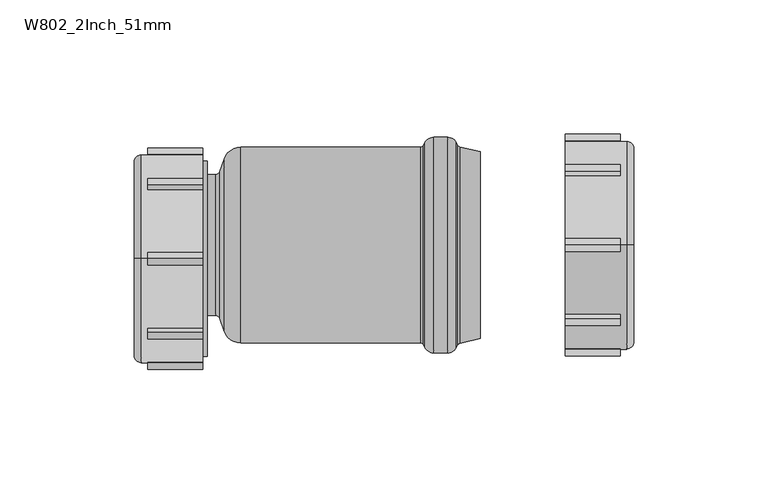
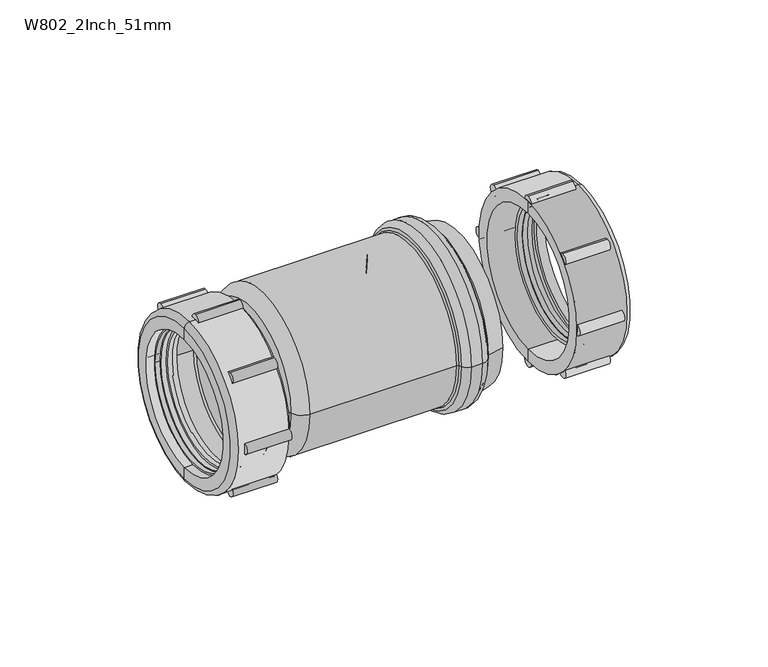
"""IFC4 building model written with IfcOpenShell, lengths in millimetres: pipe fitting geometry, Durapipe_PipeFitting_VulcatheneMechanical_HorizontalVerticalStressRelifUnit_W80 : W802_2Inch_51mm."""

from ifc_helpers import new_model, si_unit, point, frame, frame_2d, origin, place, context, project, spatial, polyline, circle_curve, ellipse_curve, trimmed, segment, composite_curve, outline, extrude, source, transform, mapped, element, save
from ifc_brep_helpers import plane_surface, cylinder_surface, revolved_surface, advanced_brep


def w802_2inch_51mm_31d1ba8a(model_context):
    return source(origin(), model_context, "Body", "SolidModel", [
        advanced_brep(
        [(86.45, -17.745549, -22.839549), (86.45, -16.1899141, -21.2839141), (86.45, 26.3779141, 21.2839141), (86.45, 27.933549, 22.839549), (80.85, -17.2505743, -22.3445743), (80.85, 27.4385743, 22.3445743), (79.45, -16.8263102, -21.9203102), (80.85, -16.8263102, -21.9203102), (80.85, 27.0143102, 21.9203102), (79.45, 27.0143102, 21.9203102), (79.45, 26.0243607, 20.9303607), (79.45, -15.8363607, -20.9303607), (81.75, 26.0243607, 20.9303607), (81.75, -15.8363607, -20.9303607), (81.75, 25.741518, 20.647518), (81.75, -15.553518, -20.647518), (83.95, -16.1899141, -21.2839141), (83.95, -15.553518, -20.647518), (83.95, 25.741518, 20.647518), (83.95, 26.3779141, 21.2839141)],
        [
            (0, 1),
            (1, 2, circle_curve(frame((86.45, 5.094, 0.0), z_axis=(-1.0, 0.0, 0.0), x_axis=(0.0, 0.7071067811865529, 0.7071067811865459)), 30.1)),
            (2, 3),
            (3, 0, circle_curve(frame((86.45, 5.094, 0.0), z_axis=(1.0, 0.0, 0.0), x_axis=(0.0, 0.7071067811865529, 0.7071067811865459)), 32.3)),
            (2, 1, circle_curve(frame((86.45, 5.094, 0.0), z_axis=(-1.0, 0.0, 0.0), x_axis=(0.0, 0.7071067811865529, 0.7071067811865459)), 30.1)),
            (0, 3, circle_curve(frame((86.45, 5.094, 0.0), z_axis=(1.0, 0.0, 0.0), x_axis=(0.0, 0.7071067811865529, 0.7071067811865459)), 32.3)),
            (4, 0),
            (3, 5),
            (5, 4, circle_curve(frame((80.85, 5.094, 0.0), z_axis=(1.0, 0.0, 0.0), x_axis=(0.0, 0.7071067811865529, 0.7071067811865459)), 31.6)),
            (4, 5, circle_curve(frame((80.85, 5.094, 0.0), z_axis=(1.0, 0.0, 0.0), x_axis=(0.0, 0.7071067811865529, 0.7071067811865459)), 31.6)),
            (6, 7),
            (7, 8, circle_curve(frame((80.85, 5.094, 0.0), z_axis=(-1.0, 0.0, 0.0), x_axis=(0.0, 0.7071067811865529, 0.7071067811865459)), 31.0)),
            (8, 9),
            (9, 6, circle_curve(frame((79.45, 5.094, 0.0), z_axis=(1.0, 0.0, 0.0), x_axis=(0.0, 0.7071067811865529, 0.7071067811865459)), 31.0)),
            (8, 7, circle_curve(frame((80.85, 5.094, 0.0), z_axis=(-1.0, 0.0, 0.0), x_axis=(0.0, 0.7071067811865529, 0.7071067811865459)), 31.0)),
            (6, 9, circle_curve(frame((79.45, 5.094, 0.0), z_axis=(1.0, 0.0, 0.0), x_axis=(0.0, 0.7071067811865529, 0.7071067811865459)), 31.0)),
            (9, 10),
            (10, 11, circle_curve(frame((79.45, 5.094, 0.0), z_axis=(1.0, 0.0, 0.0), x_axis=(0.0, 0.7071067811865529, 0.7071067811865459)), 29.6)),
            (11, 6),
            (11, 10, circle_curve(frame((79.45, 5.094, 0.0), z_axis=(1.0, 0.0, 0.0), x_axis=(0.0, 0.7071067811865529, 0.7071067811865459)), 29.6)),
            (10, 12),
            (12, 13, circle_curve(frame((81.75, 5.094, 0.0), z_axis=(1.0, 0.0, 0.0), x_axis=(0.0, 0.7071067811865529, 0.7071067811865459)), 29.6)),
            (13, 11),
            (13, 12, circle_curve(frame((81.75, 5.094, 0.0), z_axis=(1.0, 0.0, 0.0), x_axis=(0.0, 0.7071067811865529, 0.7071067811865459)), 29.6)),
            (12, 14),
            (14, 15, circle_curve(frame((81.75, 5.094, 0.0), z_axis=(1.0, 0.0, 0.0), x_axis=(0.0, 0.7071067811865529, 0.7071067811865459)), 29.2)),
            (15, 13),
            (15, 14, circle_curve(frame((81.75, 5.094, 0.0), z_axis=(1.0, 0.0, 0.0), x_axis=(0.0, 0.7071067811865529, 0.7071067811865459)), 29.2)),
            (16, 17),
            (17, 18, circle_curve(frame((83.95, 5.094, 0.0), z_axis=(-1.0, 0.0, 0.0), x_axis=(0.0, 0.7071067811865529, 0.7071067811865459)), 29.2)),
            (18, 19),
            (19, 16, circle_curve(frame((83.95, 5.094, 0.0), z_axis=(1.0, 0.0, 0.0), x_axis=(0.0, 0.7071067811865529, 0.7071067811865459)), 30.1)),
            (18, 17, circle_curve(frame((83.95, 5.094, 0.0), z_axis=(-1.0, 0.0, 0.0), x_axis=(0.0, 0.7071067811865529, 0.7071067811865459)), 29.2)),
            (16, 19, circle_curve(frame((83.95, 5.094, 0.0), z_axis=(1.0, 0.0, 0.0), x_axis=(0.0, 0.7071067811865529, 0.7071067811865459)), 30.1)),
            (1, 16),
            (19, 2),
            (14, 18),
            (17, 15),
            (5, 8),
            (7, 4),
        ],
        [
            plane_surface(frame((86.45, 5.094, 0.0), z_axis=(1.0, 0.0, 0.0), x_axis=(0.0, 0.707106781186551, 0.707106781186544))),
            revolved_surface(polyline([(86.45, 27.933549, 22.839549), (80.85, 27.4385743, 22.3445743)]), (91.45, 5.094, 0.0), (-1.0000000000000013, 0.0, 0.0)),
            cylinder_surface(frame((77.3793443, 5.094, 0.0), z_axis=(-1.0000000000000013, 0.0, 0.0), x_axis=(0.0, 0.7071067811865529, 0.7071067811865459)), 31.0),
            plane_surface(frame((79.45, 5.094, 0.0), z_axis=(-1.0, 0.0, 0.0), x_axis=(0.0, 0.707106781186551, 0.707106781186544))),
            revolved_surface(polyline([(79.45000000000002, 26.02436072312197, 20.93036072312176), (81.75000000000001, 26.02436072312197, 20.93036072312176)]), (75.957009, 5.094, 0.0), (-1.0000000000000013, 0.0, 0.0)),
            plane_surface(frame((81.75, 5.094, 0.0), z_axis=(-1.0, 0.0, 0.0), x_axis=(0.0, 0.707106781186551, 0.707106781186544))),
            plane_surface(frame((83.95, 5.094, 0.0), z_axis=(1.0, 0.0, 0.0), x_axis=(0.0, 0.707106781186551, 0.707106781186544))),
            revolved_surface(polyline([(83.94999999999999, 26.377914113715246, 21.28391411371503), (86.44999999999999, 26.377914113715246, 21.28391411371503)]), (91.45, 5.094, 0.0), (-1.0000000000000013, 0.0, 0.0)),
            revolved_surface(polyline([(81.74999999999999, 25.741518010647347, 20.64751801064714), (83.94999999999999, 25.741518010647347, 20.64751801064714)]), (88.0161924, 5.094, 0.0), (-1.0000000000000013, 0.0, 0.0)),
            plane_surface(frame((80.85, 5.094, 0.0), z_axis=(-1.0, 0.0, 0.0), x_axis=(0.0, 0.707106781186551, 0.707106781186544))),
        ],
        [
            (0, [[1, 2, 3, 4]]),
            (0, [[5, -1, 6, -3]]),
            (1, [[7, -4, 8, 9]]),
            (1, [[-8, -6, -7, 10]]),
            (2, [[11, 12, 13, 14]]),
            (2, [[15, -11, 16, -13]]),
            (3, [[17, 18, 19, -14]]),
            (3, [[-19, 20, -17, -16]]),
            (4, [[-18, 21, 22, 23]]),
            (4, [[24, -21, -20, -23]]),
            (5, [[25, 26, 27, -22]]),
            (5, [[-27, 28, -25, -24]]),
            (6, [[29, 30, 31, 32]]),
            (6, [[-31, 33, -29, 34]]),
            (7, [[35, -32, 36, -2]]),
            (7, [[-36, -34, -35, -5]]),
            (8, [[-26, 37, -30, 38]]),
            (8, [[-33, -37, -28, -38]]),
            (9, [[39, -12, 40, -9]]),
            (9, [[-40, -15, -39, -10]]),
        ],
    ),
        advanced_brep(
        [(67.5, 5.094, -38.8), (90.4, 5.094, -38.8), (90.4, 5.094, 38.8), (67.5, 5.094, 38.8), (67.5, 5.094, -33.0), (67.5, 5.094, 33.0), (92.9, 5.094, -36.3), (92.9, 5.094, -31.0), (92.9, 5.094, 31.0), (92.9, 5.094, 36.3), (89.0, 5.094, -33.0), (89.0, 5.094, 33.0), (89.0, 5.094, -31.0), (89.0, 5.094, 31.0)],
        [
            (0, 1),
            (1, 2, circle_curve(frame((90.4, 5.094, 0.0), z_axis=(-1.0, 0.0, 0.0), x_axis=(0.0, 0.0, 1.0000000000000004)), 38.8)),
            (2, 3),
            (3, 0, circle_curve(frame((67.5, 5.094, 0.0), z_axis=(1.0, 0.0, 0.0), x_axis=(0.0, 0.0, 1.0000000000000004)), 38.8)),
            (2, 1, circle_curve(frame((90.4, 5.094, 0.0), z_axis=(-1.0, 0.0, 0.0), x_axis=(0.0, 0.0, 1.0000000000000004)), 38.8)),
            (0, 3, circle_curve(frame((67.5, 5.094, 0.0), z_axis=(1.0, 0.0, 0.0), x_axis=(0.0, 0.0, 1.0000000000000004)), 38.8)),
            (4, 0),
            (3, 5),
            (5, 4, circle_curve(frame((67.5, 5.094, 0.0), z_axis=(1.0, 0.0, 0.0), x_axis=(0.0, 0.0, 1.0000000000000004)), 33.0)),
            (4, 5, circle_curve(frame((67.5, 5.094, 0.0), z_axis=(1.0, 0.0, 0.0), x_axis=(0.0, 0.0, 1.0000000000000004)), 33.0)),
            (6, 7),
            (7, 8, circle_curve(frame((92.9, 5.094, 0.0), z_axis=(-1.0, 0.0, 0.0), x_axis=(0.0, 0.0, 1.0000000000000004)), 31.0)),
            (8, 9),
            (9, 6, circle_curve(frame((92.9, 5.094, 0.0), z_axis=(1.0, 0.0, 0.0), x_axis=(0.0, 0.0, 1.0000000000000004)), 36.3)),
            (8, 7, circle_curve(frame((92.9, 5.094, 0.0), z_axis=(-1.0, 0.0, 0.0), x_axis=(0.0, 0.0, 1.0000000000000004)), 31.0)),
            (6, 9, circle_curve(frame((92.9, 5.094, 0.0), z_axis=(1.0, 0.0, 0.0), x_axis=(0.0, 0.0, 1.0000000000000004)), 36.3)),
            (1, 6, circle_curve(frame((90.4, 5.094, -36.3), z_axis=(0.0, -1.0000000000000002, 0.0), x_axis=(1.0000000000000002, 0.0, 0.0)), 2.5)),
            (9, 2, circle_curve(frame((90.4, 5.094, 36.3), z_axis=(0.0, -1.0000000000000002, 0.0), x_axis=(1.0000000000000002, 0.0, 0.0)), 2.5)),
            (10, 4),
            (5, 11),
            (11, 10, circle_curve(frame((89.0, 5.094, 0.0), z_axis=(1.0, 0.0, 0.0), x_axis=(0.0, 0.0, 1.0000000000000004)), 33.0)),
            (10, 11, circle_curve(frame((89.0, 5.094, 0.0), z_axis=(1.0, 0.0, 0.0), x_axis=(0.0, 0.0, 1.0000000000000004)), 33.0)),
            (12, 10),
            (11, 13),
            (13, 12, circle_curve(frame((89.0, 5.094, 0.0), z_axis=(1.0, 0.0, 0.0), x_axis=(0.0, 0.0, 1.0000000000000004)), 31.0)),
            (12, 13, circle_curve(frame((89.0, 5.094, 0.0), z_axis=(1.0, 0.0, 0.0), x_axis=(0.0, 0.0, 1.0000000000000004)), 31.0)),
            (7, 12),
            (13, 8),
        ],
        [
            cylinder_surface(frame((1653.7018184, 5.094, 0.0), z_axis=(-1.0000000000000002, 0.0, 0.0), x_axis=(0.0, 0.0, 1.0000000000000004)), 38.8),
            plane_surface(frame((67.5, 5.094, 0.0), z_axis=(-1.0, 0.0, 0.0), x_axis=(0.0, 0.0, 1.0))),
            plane_surface(frame((92.9, 5.094, 0.0), z_axis=(1.0, 0.0, 0.0), x_axis=(0.0, 0.0, 1.0))),
            revolved_surface(trimmed(ellipse_curve(frame((90.4, 5.094, 36.3), z_axis=(0.0, -1.0000000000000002, 0.0), x_axis=(1.0000000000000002, 0.0, 0.0)), 2.5, 2.5), [point((92.9, 5.094, 36.3))], [point((90.4, 5.094, 38.8))], True, "CARTESIAN"), (1653.7018184, 5.094, 0.0), (-1.0000000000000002, 0.0, 0.0)),
            revolved_surface(polyline([(67.49999999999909, 5.094, 33.000000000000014), (88.99999999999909, 5.094, 33.000000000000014)]), (1653.7018184, 5.094, 0.0), (-1.0000000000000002, 0.0, 0.0)),
            plane_surface(frame((89.0, 5.094, 0.0), z_axis=(-1.0, 0.0, 0.0), x_axis=(0.0, 0.0, 1.0))),
            revolved_surface(polyline([(88.99999999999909, 5.094, 31.000000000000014), (92.89999999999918, 5.094, 31.000000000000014)]), (1653.7018184, 5.094, 0.0), (-1.0000000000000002, 0.0, 0.0)),
        ],
        [
            (0, [[1, 2, 3, 4]]),
            (0, [[-3, 5, -1, 6]]),
            (1, [[7, -4, 8, 9]]),
            (1, [[-8, -6, -7, 10]]),
            (2, [[11, 12, 13, 14]]),
            (2, [[-13, 15, -11, 16]]),
            (3, [[17, -14, 18, -2]]),
            (3, [[-18, -16, -17, -5]]),
            (4, [[19, -9, 20, 21]]),
            (4, [[-20, -10, -19, 22]]),
            (5, [[23, -21, 24, 25]]),
            (5, [[-24, -22, -23, 26]]),
            (6, [[27, -25, 28, -12]]),
            (6, [[-28, -26, -27, -15]]),
        ],
    ),
        extrude(outline(composite_curve([segment(trimmed(circle_curve(frame_2d((43.894, 0.0)), 2.5), [point((43.894, -2.5))], [point((43.894, 2.5))], False, "CARTESIAN"), True, "CONTINUOUS"), segment(trimmed(circle_curve(frame_2d((43.894, 0.0)), 2.5), [point((43.894, 2.5))], [point((43.894, -2.5))], False, "CARTESIAN"), True, "CONTINUOUS")], self_intersect=False)), frame((67.5, 0.0, 0.0), z_axis=(1.0, 0.0, 0.0), x_axis=(0.0, 1.0, 0.0)), (0.0, 0.0, 1.0), 20.4),
        extrude(outline(composite_curve([segment(trimmed(circle_curve(frame_2d((32.5297431, 27.4357431)), 2.5), [point((32.5297431, 24.9357431))], [point((32.5297431, 29.9357431))], False, "CARTESIAN"), True, "CONTINUOUS"), segment(trimmed(circle_curve(frame_2d((32.5297431, 27.4357431)), 2.5), [point((32.5297431, 29.9357431))], [point((32.5297431, 24.9357431))], False, "CARTESIAN"), True, "CONTINUOUS")], self_intersect=False)), frame((67.5, 0.0, 0.0), z_axis=(1.0, 0.0, 0.0), x_axis=(0.0, 1.0, 0.0)), (0.0, 0.0, 1.0), 20.4),
        extrude(outline(composite_curve([segment(trimmed(circle_curve(frame_2d((5.094, 38.8)), 2.5), [point((5.094, 36.3))], [point((5.094, 41.3))], False, "CARTESIAN"), True, "CONTINUOUS"), segment(trimmed(circle_curve(frame_2d((5.094, 38.8)), 2.5), [point((5.094, 41.3))], [point((5.094, 36.3))], False, "CARTESIAN"), True, "CONTINUOUS")], self_intersect=False)), frame((67.5, 0.0, 0.0), z_axis=(1.0, 0.0, 0.0), x_axis=(0.0, 1.0, 0.0)), (0.0, 0.0, 1.0), 20.4),
        extrude(outline(composite_curve([segment(trimmed(circle_curve(frame_2d((-22.3417431, 27.4357431)), 2.5), [point((-22.3417431, 24.9357431))], [point((-22.3417431, 29.9357431))], False, "CARTESIAN"), True, "CONTINUOUS"), segment(trimmed(circle_curve(frame_2d((-22.3417431, 27.4357431)), 2.5), [point((-22.3417431, 29.9357431))], [point((-22.3417431, 24.9357431))], False, "CARTESIAN"), True, "CONTINUOUS")], self_intersect=False)), frame((67.5, 0.0, 0.0), z_axis=(1.0, 0.0, 0.0), x_axis=(0.0, 1.0, 0.0)), (0.0, 0.0, 1.0), 20.4),
        extrude(outline(composite_curve([segment(trimmed(circle_curve(frame_2d((-33.706, 0.0)), 2.5), [point((-33.706, -2.5))], [point((-33.706, 2.5))], False, "CARTESIAN"), True, "CONTINUOUS"), segment(trimmed(circle_curve(frame_2d((-33.706, 0.0)), 2.5), [point((-33.706, 2.5))], [point((-33.706, -2.5))], False, "CARTESIAN"), True, "CONTINUOUS")], self_intersect=False)), frame((67.5, 0.0, 0.0), z_axis=(1.0, 0.0, 0.0), x_axis=(0.0, 1.0, 0.0)), (0.0, 0.0, 1.0), 20.4),
        extrude(outline(composite_curve([segment(trimmed(circle_curve(frame_2d((-22.3417431, -27.4357431)), 2.5), [point((-22.3417431, -29.9357431))], [point((-22.3417431, -24.9357431))], False, "CARTESIAN"), True, "CONTINUOUS"), segment(trimmed(circle_curve(frame_2d((-22.3417431, -27.4357431)), 2.5), [point((-22.3417431, -24.9357431))], [point((-22.3417431, -29.9357431))], False, "CARTESIAN"), True, "CONTINUOUS")], self_intersect=False)), frame((67.5, 0.0, 0.0), z_axis=(1.0, 0.0, 0.0), x_axis=(0.0, 1.0, 0.0)), (0.0, 0.0, 1.0), 20.4),
        extrude(outline(composite_curve([segment(trimmed(circle_curve(frame_2d((5.094, -38.8)), 2.5), [point((5.094, -41.3))], [point((5.094, -36.3))], False, "CARTESIAN"), True, "CONTINUOUS"), segment(trimmed(circle_curve(frame_2d((5.094, -38.8)), 2.5), [point((5.094, -36.3))], [point((5.094, -41.3))], False, "CARTESIAN"), True, "CONTINUOUS")], self_intersect=False)), frame((67.5, 0.0, 0.0), z_axis=(1.0, 0.0, 0.0), x_axis=(0.0, 1.0, 0.0)), (0.0, 0.0, 1.0), 20.4),
        extrude(outline(composite_curve([segment(trimmed(circle_curve(frame_2d((32.5297431, -27.4357431)), 2.5), [point((32.5297431, -29.9357431))], [point((32.5297431, -24.9357431))], False, "CARTESIAN"), True, "CONTINUOUS"), segment(trimmed(circle_curve(frame_2d((32.5297431, -27.4357431)), 2.5), [point((32.5297431, -24.9357431))], [point((32.5297431, -29.9357431))], False, "CARTESIAN"), True, "CONTINUOUS")], self_intersect=False)), frame((67.5, 0.0, 0.0), z_axis=(1.0, 0.0, 0.0), x_axis=(0.0, 1.0, 0.0)), (0.0, 0.0, 1.0), 20.4),
        advanced_brep(
        [(-86.45, -22.839549, -22.839549), (-86.45, 22.839549, 22.839549), (-86.45, 21.2839141, 21.2839141), (-86.45, -21.2839141, -21.2839141), (-80.85, -22.3445743, -22.3445743), (-80.85, 22.3445743, 22.3445743), (-79.45, -21.9203102, -21.9203102), (-79.45, 21.9203102, 21.9203102), (-80.85, 21.9203102, 21.9203102), (-80.85, -21.9203102, -21.9203102), (-79.45, -20.9303607, -20.9303607), (-79.45, 20.9303607, 20.9303607), (-81.75, -20.9303607, -20.9303607), (-81.75, 20.9303607, 20.9303607), (-81.75, -20.647518, -20.647518), (-81.75, 20.647518, 20.647518), (-83.95, -21.2839141, -21.2839141), (-83.95, 21.2839141, 21.2839141), (-83.95, 20.647518, 20.647518), (-83.95, -20.647518, -20.647518)],
        [
            (0, 1, circle_curve(frame((-86.45, 0.0, 0.0), z_axis=(-1.0, 0.0, 0.0), x_axis=(0.0, 0.7071067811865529, 0.7071067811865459)), 32.3)),
            (1, 2),
            (2, 3, circle_curve(frame((-86.45, 0.0, 0.0), z_axis=(1.0, 0.0, 0.0), x_axis=(0.0, 0.7071067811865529, 0.7071067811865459)), 30.1)),
            (3, 0),
            (1, 0, circle_curve(frame((-86.45, 0.0, 0.0), z_axis=(-1.0, 0.0, 0.0), x_axis=(0.0, 0.7071067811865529, 0.7071067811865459)), 32.3)),
            (3, 2, circle_curve(frame((-86.45, 0.0, 0.0), z_axis=(1.0, 0.0, 0.0), x_axis=(0.0, 0.7071067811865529, 0.7071067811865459)), 30.1)),
            (4, 5, circle_curve(frame((-80.85, 0.0, 0.0), z_axis=(-1.0, 0.0, 0.0), x_axis=(0.0, 0.7071067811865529, 0.7071067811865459)), 31.6)),
            (5, 1),
            (0, 4),
            (5, 4, circle_curve(frame((-80.85, 0.0, 0.0), z_axis=(-1.0, 0.0, 0.0), x_axis=(0.0, 0.7071067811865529, 0.7071067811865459)), 31.6)),
            (6, 7, circle_curve(frame((-79.45, 0.0, 0.0), z_axis=(-1.0, 0.0, 0.0), x_axis=(0.0, 0.7071067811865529, 0.7071067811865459)), 31.0)),
            (7, 8),
            (8, 9, circle_curve(frame((-80.85, 0.0, 0.0), z_axis=(1.0, 0.0, 0.0), x_axis=(0.0, 0.7071067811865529, 0.7071067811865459)), 31.0)),
            (9, 6),
            (7, 6, circle_curve(frame((-79.45, 0.0, 0.0), z_axis=(-1.0, 0.0, 0.0), x_axis=(0.0, 0.7071067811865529, 0.7071067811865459)), 31.0)),
            (9, 8, circle_curve(frame((-80.85, 0.0, 0.0), z_axis=(1.0, 0.0, 0.0), x_axis=(0.0, 0.7071067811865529, 0.7071067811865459)), 31.0)),
            (6, 10),
            (10, 11, circle_curve(frame((-79.45, 0.0, 0.0), z_axis=(-1.0, 0.0, 0.0), x_axis=(0.0, 0.7071067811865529, 0.7071067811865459)), 29.6)),
            (11, 7),
            (11, 10, circle_curve(frame((-79.45, 0.0, 0.0), z_axis=(-1.0, 0.0, 0.0), x_axis=(0.0, 0.7071067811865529, 0.7071067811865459)), 29.6)),
            (10, 12),
            (12, 13, circle_curve(frame((-81.75, 0.0, 0.0), z_axis=(-1.0, 0.0, 0.0), x_axis=(0.0, 0.7071067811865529, 0.7071067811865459)), 29.6)),
            (13, 11),
            (13, 12, circle_curve(frame((-81.75, 0.0, 0.0), z_axis=(-1.0, 0.0, 0.0), x_axis=(0.0, 0.7071067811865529, 0.7071067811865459)), 29.6)),
            (12, 14),
            (14, 15, circle_curve(frame((-81.75, 0.0, 0.0), z_axis=(-1.0, 0.0, 0.0), x_axis=(0.0, 0.7071067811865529, 0.7071067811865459)), 29.2)),
            (15, 13),
            (15, 14, circle_curve(frame((-81.75, 0.0, 0.0), z_axis=(-1.0, 0.0, 0.0), x_axis=(0.0, 0.7071067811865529, 0.7071067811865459)), 29.2)),
            (16, 17, circle_curve(frame((-83.95, 0.0, 0.0), z_axis=(-1.0, 0.0, 0.0), x_axis=(0.0, 0.7071067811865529, 0.7071067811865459)), 30.1)),
            (17, 18),
            (18, 19, circle_curve(frame((-83.95, 0.0, 0.0), z_axis=(1.0, 0.0, 0.0), x_axis=(0.0, 0.7071067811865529, 0.7071067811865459)), 29.2)),
            (19, 16),
            (17, 16, circle_curve(frame((-83.95, 0.0, 0.0), z_axis=(-1.0, 0.0, 0.0), x_axis=(0.0, 0.7071067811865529, 0.7071067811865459)), 30.1)),
            (19, 18, circle_curve(frame((-83.95, 0.0, 0.0), z_axis=(1.0, 0.0, 0.0), x_axis=(0.0, 0.7071067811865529, 0.7071067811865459)), 29.2)),
            (2, 17),
            (16, 3),
            (14, 19),
            (18, 15),
            (4, 9),
            (8, 5),
        ],
        [
            plane_surface(frame((-86.45, 0.0, 0.0), z_axis=(-1.0, 0.0, 0.0), x_axis=(0.0, 0.707106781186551, 0.707106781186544))),
            revolved_surface(polyline([(-86.45, 22.839549, 22.839549), (-80.85, 22.3445743, 22.3445743)]), (-91.45, 0.0, 0.0), (1.0000000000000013, 0.0, 0.0)),
            cylinder_surface(frame((-77.3793443, 0.0, 0.0), z_axis=(1.0000000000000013, 0.0, 0.0), x_axis=(0.0, 0.7071067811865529, 0.7071067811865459)), 31.0),
            plane_surface(frame((-79.45, 0.0, 0.0), z_axis=(1.0, 0.0, 0.0), x_axis=(0.0, 0.707106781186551, 0.707106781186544))),
            revolved_surface(polyline([(-79.45000000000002, 20.930360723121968, 20.93036072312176), (-81.75000000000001, 20.930360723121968, 20.93036072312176)]), (-75.957009, 0.0, 0.0), (1.0000000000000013, 0.0, 0.0)),
            plane_surface(frame((-81.75, 0.0, 0.0), z_axis=(1.0, 0.0, 0.0), x_axis=(0.0, 0.707106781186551, 0.707106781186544))),
            plane_surface(frame((-83.95, 0.0, 0.0), z_axis=(-1.0, 0.0, 0.0), x_axis=(0.0, 0.707106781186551, 0.707106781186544))),
            revolved_surface(polyline([(-83.94999999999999, 21.283914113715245, 21.28391411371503), (-86.44999999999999, 21.283914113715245, 21.28391411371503)]), (-91.45, 0.0, 0.0), (1.0000000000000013, 0.0, 0.0)),
            revolved_surface(polyline([(-81.74999999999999, 20.647518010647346, 20.64751801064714), (-83.94999999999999, 20.647518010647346, 20.64751801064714)]), (-88.0161924, 0.0, 0.0), (1.0000000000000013, 0.0, 0.0)),
            plane_surface(frame((-80.85, 0.0, 0.0), z_axis=(1.0, 0.0, 0.0), x_axis=(0.0, 0.707106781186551, 0.707106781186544))),
        ],
        [
            (0, [[1, 2, 3, 4]]),
            (0, [[-2, 5, -4, 6]]),
            (1, [[7, 8, -1, 9]]),
            (1, [[10, -9, -5, -8]]),
            (2, [[11, 12, 13, 14]]),
            (2, [[-12, 15, -14, 16]]),
            (3, [[-11, 17, 18, 19]]),
            (3, [[-15, -19, 20, -17]]),
            (4, [[21, 22, 23, -18]]),
            (4, [[-21, -20, -23, 24]]),
            (5, [[-22, 25, 26, 27]]),
            (5, [[-24, -27, 28, -25]]),
            (6, [[29, 30, 31, 32]]),
            (6, [[33, -32, 34, -30]]),
            (7, [[-3, 35, -29, 36]]),
            (7, [[-6, -36, -33, -35]]),
            (8, [[37, -31, 38, -26]]),
            (8, [[-37, -28, -38, -34]]),
            (9, [[-7, 39, -13, 40]]),
            (9, [[-10, -40, -16, -39]]),
        ],
    ),
        advanced_brep(
        [(-67.5, 0.0, -38.8), (-67.5, 0.0, 38.8), (-90.4, 0.0, 38.8), (-90.4, 0.0, -38.8), (-67.5, 0.0, -33.0), (-67.5, 0.0, 33.0), (-92.9, 0.0, -36.3), (-92.9, 0.0, 36.3), (-92.9, 0.0, 31.0), (-92.9, 0.0, -31.0), (-89.0, 0.0, -33.0), (-89.0, 0.0, 33.0), (-89.0, 0.0, -31.0), (-89.0, 0.0, 31.0)],
        [
            (0, 1, circle_curve(frame((-67.5, 0.0, 0.0), z_axis=(-1.0, 0.0, 0.0), x_axis=(0.0, 0.0, 1.0000000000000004)), 38.8)),
            (1, 2),
            (2, 3, circle_curve(frame((-90.4, 0.0, 0.0), z_axis=(1.0, 0.0, 0.0), x_axis=(0.0, 0.0, 1.0000000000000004)), 38.8)),
            (3, 0),
            (1, 0, circle_curve(frame((-67.5, 0.0, 0.0), z_axis=(-1.0, 0.0, 0.0), x_axis=(0.0, 0.0, 1.0000000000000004)), 38.8)),
            (3, 2, circle_curve(frame((-90.4, 0.0, 0.0), z_axis=(1.0, 0.0, 0.0), x_axis=(0.0, 0.0, 1.0000000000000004)), 38.8)),
            (4, 5, circle_curve(frame((-67.5, 0.0, 0.0), z_axis=(-1.0, 0.0, 0.0), x_axis=(0.0, 0.0, 1.0000000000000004)), 33.0)),
            (5, 1),
            (0, 4),
            (5, 4, circle_curve(frame((-67.5, 0.0, 0.0), z_axis=(-1.0, 0.0, 0.0), x_axis=(0.0, 0.0, 1.0000000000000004)), 33.0)),
            (6, 7, circle_curve(frame((-92.9, 0.0, 0.0), z_axis=(-1.0, 0.0, 0.0), x_axis=(0.0, 0.0, 1.0000000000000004)), 36.3)),
            (7, 8),
            (8, 9, circle_curve(frame((-92.9, 0.0, 0.0), z_axis=(1.0, 0.0, 0.0), x_axis=(0.0, 0.0, 1.0000000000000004)), 31.0)),
            (9, 6),
            (7, 6, circle_curve(frame((-92.9, 0.0, 0.0), z_axis=(-1.0, 0.0, 0.0), x_axis=(0.0, 0.0, 1.0000000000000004)), 36.3)),
            (9, 8, circle_curve(frame((-92.9, 0.0, 0.0), z_axis=(1.0, 0.0, 0.0), x_axis=(0.0, 0.0, 1.0000000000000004)), 31.0)),
            (2, 7, circle_curve(frame((-90.4, 0.0, 36.3), z_axis=(0.0, -1.0000000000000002, 0.0), x_axis=(-1.0000000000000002, 0.0, 0.0)), 2.5)),
            (6, 3, circle_curve(frame((-90.4, 0.0, -36.3), z_axis=(0.0, -1.0000000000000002, 0.0), x_axis=(-1.0000000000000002, 0.0, 0.0)), 2.5)),
            (10, 11, circle_curve(frame((-89.0, 0.0, 0.0), z_axis=(-1.0, 0.0, 0.0), x_axis=(0.0, 0.0, 1.0000000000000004)), 33.0)),
            (11, 5),
            (4, 10),
            (11, 10, circle_curve(frame((-89.0, 0.0, 0.0), z_axis=(-1.0, 0.0, 0.0), x_axis=(0.0, 0.0, 1.0000000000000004)), 33.0)),
            (12, 13, circle_curve(frame((-89.0, 0.0, 0.0), z_axis=(-1.0, 0.0, 0.0), x_axis=(0.0, 0.0, 1.0000000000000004)), 31.0)),
            (13, 11),
            (10, 12),
            (13, 12, circle_curve(frame((-89.0, 0.0, 0.0), z_axis=(-1.0, 0.0, 0.0), x_axis=(0.0, 0.0, 1.0000000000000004)), 31.0)),
            (8, 13),
            (12, 9),
        ],
        [
            cylinder_surface(frame((-1653.7018184, 0.0, 0.0), z_axis=(1.0000000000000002, 0.0, 0.0), x_axis=(0.0, 0.0, 1.0000000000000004)), 38.8),
            plane_surface(frame((-67.5, 0.0, 0.0), z_axis=(1.0, 0.0, 0.0), x_axis=(0.0, 0.0, 1.0))),
            plane_surface(frame((-92.9, 0.0, 0.0), z_axis=(-1.0, 0.0, 0.0), x_axis=(0.0, 0.0, 1.0))),
            revolved_surface(trimmed(ellipse_curve(frame((-90.4, 0.0, 36.3), z_axis=(0.0, 1.0000000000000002, 0.0), x_axis=(-1.0000000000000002, 0.0, 0.0)), 2.5, 2.5), [point((-92.9, 0.0, 36.3))], [point((-90.4, 0.0, 38.8))], True, "CARTESIAN"), (-1653.7018184, 0.0, 0.0), (1.0000000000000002, 0.0, 0.0)),
            revolved_surface(polyline([(-67.49999999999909, 0.0, 33.000000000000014), (-88.99999999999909, 0.0, 33.000000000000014)]), (-1653.7018184, 0.0, 0.0), (1.0000000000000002, 0.0, 0.0)),
            plane_surface(frame((-89.0, 0.0, 0.0), z_axis=(1.0, 0.0, 0.0), x_axis=(0.0, 0.0, 1.0))),
            revolved_surface(polyline([(-88.99999999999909, 0.0, 31.000000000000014), (-92.89999999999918, 0.0, 31.000000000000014)]), (-1653.7018184, 0.0, 0.0), (1.0000000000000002, 0.0, 0.0)),
        ],
        [
            (0, [[1, 2, 3, 4]]),
            (0, [[5, -4, 6, -2]]),
            (1, [[7, 8, -1, 9]]),
            (1, [[10, -9, -5, -8]]),
            (2, [[11, 12, 13, 14]]),
            (2, [[15, -14, 16, -12]]),
            (3, [[-3, 17, -11, 18]]),
            (3, [[-6, -18, -15, -17]]),
            (4, [[19, 20, -7, 21]]),
            (4, [[22, -21, -10, -20]]),
            (5, [[23, 24, -19, 25]]),
            (5, [[26, -25, -22, -24]]),
            (6, [[-13, 27, -23, 28]]),
            (6, [[-16, -28, -26, -27]]),
        ],
    ),
        extrude(outline(composite_curve([segment(trimmed(circle_curve(frame_2d((38.8, 0.0)), 2.5), [point((38.8, -2.5))], [point((38.8, 2.5))], False, "CARTESIAN"), True, "CONTINUOUS"), segment(trimmed(circle_curve(frame_2d((38.8, 0.0)), 2.5), [point((38.8, 2.5))], [point((38.8, -2.5))], False, "CARTESIAN"), True, "CONTINUOUS")], self_intersect=False)), frame((-87.9, 0.0, 0.0), z_axis=(1.0, 0.0, 0.0), x_axis=(0.0, 1.0, 0.0)), (0.0, 0.0, 1.0), 20.4),
        extrude(outline(composite_curve([segment(trimmed(circle_curve(frame_2d((27.4357431, 27.4357431)), 2.5), [point((27.4357431, 24.9357431))], [point((27.4357431, 29.9357431))], False, "CARTESIAN"), True, "CONTINUOUS"), segment(trimmed(circle_curve(frame_2d((27.4357431, 27.4357431)), 2.5), [point((27.4357431, 29.9357431))], [point((27.4357431, 24.9357431))], False, "CARTESIAN"), True, "CONTINUOUS")], self_intersect=False)), frame((-87.9, 0.0, 0.0), z_axis=(1.0, 0.0, 0.0), x_axis=(0.0, 1.0, 0.0)), (0.0, 0.0, 1.0), 20.4),
        extrude(outline(composite_curve([segment(trimmed(circle_curve(frame_2d((0.0, 38.8)), 2.5), [point((0.0, 36.3))], [point((0.0, 41.3))], False, "CARTESIAN"), True, "CONTINUOUS"), segment(trimmed(circle_curve(frame_2d((0.0, 38.8)), 2.5), [point((0.0, 41.3))], [point((0.0, 36.3))], False, "CARTESIAN"), True, "CONTINUOUS")], self_intersect=False)), frame((-87.9, 0.0, 0.0), z_axis=(1.0, 0.0, 0.0), x_axis=(0.0, 1.0, 0.0)), (0.0, 0.0, 1.0), 20.4),
        extrude(outline(composite_curve([segment(trimmed(circle_curve(frame_2d((-27.4357431, 27.4357431)), 2.5), [point((-27.4357431, 24.9357431))], [point((-27.4357431, 29.9357431))], False, "CARTESIAN"), True, "CONTINUOUS"), segment(trimmed(circle_curve(frame_2d((-27.4357431, 27.4357431)), 2.5), [point((-27.4357431, 29.9357431))], [point((-27.4357431, 24.9357431))], False, "CARTESIAN"), True, "CONTINUOUS")], self_intersect=False)), frame((-87.9, 0.0, 0.0), z_axis=(1.0, 0.0, 0.0), x_axis=(0.0, 1.0, 0.0)), (0.0, 0.0, 1.0), 20.4),
        extrude(outline(composite_curve([segment(trimmed(circle_curve(frame_2d((-38.8, 0.0)), 2.5), [point((-38.8, -2.5))], [point((-38.8, 2.5))], False, "CARTESIAN"), True, "CONTINUOUS"), segment(trimmed(circle_curve(frame_2d((-38.8, 0.0)), 2.5), [point((-38.8, 2.5))], [point((-38.8, -2.5))], False, "CARTESIAN"), True, "CONTINUOUS")], self_intersect=False)), frame((-87.9, 0.0, 0.0), z_axis=(1.0, 0.0, 0.0), x_axis=(0.0, 1.0, 0.0)), (0.0, 0.0, 1.0), 20.4),
        extrude(outline(composite_curve([segment(trimmed(circle_curve(frame_2d((-27.4357431, -27.4357431)), 2.5), [point((-27.4357431, -29.9357431))], [point((-27.4357431, -24.9357431))], False, "CARTESIAN"), True, "CONTINUOUS"), segment(trimmed(circle_curve(frame_2d((-27.4357431, -27.4357431)), 2.5), [point((-27.4357431, -24.9357431))], [point((-27.4357431, -29.9357431))], False, "CARTESIAN"), True, "CONTINUOUS")], self_intersect=False)), frame((-87.9, 0.0, 0.0), z_axis=(1.0, 0.0, 0.0), x_axis=(0.0, 1.0, 0.0)), (0.0, 0.0, 1.0), 20.4),
        extrude(outline(composite_curve([segment(trimmed(circle_curve(frame_2d((0.0, -38.8)), 2.5), [point((0.0, -41.3))], [point((0.0, -36.3))], False, "CARTESIAN"), True, "CONTINUOUS"), segment(trimmed(circle_curve(frame_2d((0.0, -38.8)), 2.5), [point((0.0, -36.3))], [point((0.0, -41.3))], False, "CARTESIAN"), True, "CONTINUOUS")], self_intersect=False)), frame((-87.9, 0.0, 0.0), z_axis=(1.0, 0.0, 0.0), x_axis=(0.0, 1.0, 0.0)), (0.0, 0.0, 1.0), 20.4),
        extrude(outline(composite_curve([segment(trimmed(circle_curve(frame_2d((27.4357431, -27.4357431)), 2.5), [point((27.4357431, -29.9357431))], [point((27.4357431, -24.9357431))], False, "CARTESIAN"), True, "CONTINUOUS"), segment(trimmed(circle_curve(frame_2d((27.4357431, -27.4357431)), 2.5), [point((27.4357431, -24.9357431))], [point((27.4357431, -29.9357431))], False, "CARTESIAN"), True, "CONTINUOUS")], self_intersect=False)), frame((-87.9, 0.0, 0.0), z_axis=(1.0, 0.0, 0.0), x_axis=(0.0, 1.0, 0.0)), (0.0, 0.0, 1.0), 20.4),
        advanced_brep(
        [(27.4957976, -31.9824382, 0.0), (27.4957976, 42.1704382, 0.0), (28.161853, 41.6500587, 0.0), (28.161853, -31.4620587, 0.0), (26.9531138, -33.0475151, 0.0), (26.9531138, 43.2355151, 0.0), (23.6331511, -35.0819909, 0.0), (23.6331511, 45.2699909, 0.0), (18.5100079, -35.0819909, 0.0), (18.5100079, 45.2699909, 0.0), (15.1900452, -33.0475151, 0.0), (15.1900452, 43.2355151, 0.0), (14.6097833, -31.908687, 0.0), (14.6097833, 42.096687, 0.0), (13.7187768, -31.3626775, 0.0), (13.7187768, 41.5506775, 0.0), (-53.3654918, -31.3626775, 0.0), (-53.3654918, 41.5506775, 0.0), (35.825, -29.6928818, 0.0), (35.825, 39.8808818, 0.0), (35.825, 5.094, 0.0), (-59.4785286, -27.0022908, 0.0), (-59.4785286, 37.1902908, 0.0), (-61.1197072, -22.235962, 0.0), (-61.1197072, 32.423962, 0.0), (-62.6253161, -21.1620216, 0.0), (-62.6253161, 31.3500216, 0.0), (-65.7684395, -21.1620216, 0.0), (-65.7684395, 31.3500216, 0.0), (-65.7684395, 5.094, 0.0)],
        [
            (0, 1, circle_curve(frame((27.4957976, 5.094, 0.0), z_axis=(1.0, 0.0, 0.0), x_axis=(0.0, 1.0, 0.0)), 37.0764382)),
            (1, 2, circle_curve(frame((28.3868041, 42.6244287, 0.0), z_axis=(0.0, 0.0, 1.0), x_axis=(1.0, 0.0, 0.0)), 1.0)),
            (2, 3, circle_curve(frame((28.161853, 5.094, 0.0), z_axis=(-1.0, 0.0, 0.0), x_axis=(0.0, 1.0, 0.0)), 36.5560587)),
            (3, 0, circle_curve(frame((28.3868041, -32.4364287, 0.0), z_axis=(0.0, 0.0, 1.0), x_axis=(1.0, 0.0, 0.0)), 1.0)),
            (1, 0, circle_curve(frame((27.4957976, 5.094, 0.0), z_axis=(1.0, 0.0, 0.0), x_axis=(0.0, 1.0, 0.0)), 37.0764382)),
            (3, 2, circle_curve(frame((28.161853, 5.094, 0.0), z_axis=(-1.0, 0.0, 0.0), x_axis=(0.0, 1.0, 0.0)), 36.5560587)),
            (4, 5, circle_curve(frame((26.9531138, 5.094, 0.0), z_axis=(1.0, 0.0, 0.0), x_axis=(0.0, 1.0, 0.0)), 38.1415151)),
            (5, 1),
            (0, 4),
            (5, 4, circle_curve(frame((26.9531138, 5.094, 0.0), z_axis=(1.0, 0.0, 0.0), x_axis=(0.0, 1.0, 0.0)), 38.1415151)),
            (6, 7, circle_curve(frame((23.6331511, 5.094, 0.0), z_axis=(1.0, 0.0, 0.0), x_axis=(0.0, 1.0, 0.0)), 40.1759909)),
            (7, 5, circle_curve(frame((23.6331511, 41.5439096, 0.0), z_axis=(0.0, 0.0, -1.0), x_axis=(1.0, 0.0, 0.0)), 3.7260813)),
            (4, 6, circle_curve(frame((23.6331511, -31.3559096, 0.0), z_axis=(0.0, 0.0, -1.0), x_axis=(1.0, 0.0, 0.0)), 3.7260813)),
            (7, 6, circle_curve(frame((23.6331511, 5.094, 0.0), z_axis=(1.0, 0.0, 0.0), x_axis=(0.0, 1.0, 0.0)), 40.1759909)),
            (8, 9, circle_curve(frame((18.5100079, 5.094, 0.0), z_axis=(1.0, 0.0, 0.0), x_axis=(0.0, 1.0, 0.0)), 40.1759909)),
            (9, 7),
            (6, 8),
            (9, 8, circle_curve(frame((18.5100079, 5.094, 0.0), z_axis=(1.0, 0.0, 0.0), x_axis=(0.0, 1.0, 0.0)), 40.1759909)),
            (10, 11, circle_curve(frame((15.1900452, 5.094, 0.0), z_axis=(1.0, 0.0, 0.0), x_axis=(0.0, 1.0, 0.0)), 38.1415151)),
            (11, 9, circle_curve(frame((18.5100079, 41.5439096, 0.0), z_axis=(0.0, 0.0, -1.0), x_axis=(1.0, 0.0, 0.0)), 3.7260813)),
            (8, 10, circle_curve(frame((18.5100079, -31.3559096, 0.0), z_axis=(0.0, 0.0, -1.0), x_axis=(1.0, 0.0, 0.0)), 3.7260813)),
            (11, 10, circle_curve(frame((15.1900452, 5.094, 0.0), z_axis=(1.0, 0.0, 0.0), x_axis=(0.0, 1.0, 0.0)), 38.1415151)),
            (12, 13, circle_curve(frame((14.6097833, 5.094, 0.0), z_axis=(1.0, 0.0, 0.0), x_axis=(0.0, 1.0, 0.0)), 37.002687)),
            (13, 11),
            (10, 12),
            (13, 12, circle_curve(frame((14.6097833, 5.094, 0.0), z_axis=(1.0, 0.0, 0.0), x_axis=(0.0, 1.0, 0.0)), 37.002687)),
            (14, 15, circle_curve(frame((13.7187768, 5.094, 0.0), z_axis=(1.0, 0.0, 0.0), x_axis=(0.0, 1.0, 0.0)), 36.4566775)),
            (15, 13, circle_curve(frame((13.7187768, 42.5506775, 0.0), z_axis=(0.0, 0.0, 1.0), x_axis=(1.0, 0.0, 0.0)), 1.0)),
            (12, 14, circle_curve(frame((13.7187768, -32.3626775, 0.0), z_axis=(0.0, 0.0, 1.0), x_axis=(1.0, 0.0, 0.0)), 1.0)),
            (15, 14, circle_curve(frame((13.7187768, 5.094, 0.0), z_axis=(1.0, 0.0, 0.0), x_axis=(0.0, 1.0, 0.0)), 36.4566775)),
            (16, 17, circle_curve(frame((-53.3654918, 5.094, 0.0), z_axis=(1.0, 0.0, 0.0), x_axis=(0.0, 1.0, 0.0)), 36.4566775)),
            (17, 15),
            (14, 16),
            (17, 16, circle_curve(frame((-53.3654918, 5.094, 0.0), z_axis=(1.0, 0.0, 0.0), x_axis=(0.0, 1.0, 0.0)), 36.4566775)),
            (18, 19, circle_curve(frame((35.825, 5.094, 0.0), z_axis=(1.0, 0.0, 0.0), x_axis=(0.0, 1.0, 0.0)), 34.7868818)),
            (19, 20),
            (20, 18),
            (19, 18, circle_curve(frame((35.825, 5.094, 0.0), z_axis=(1.0, 0.0, 0.0), x_axis=(0.0, 1.0, 0.0)), 34.7868818)),
            (2, 19),
            (18, 3),
            (21, 22, circle_curve(frame((-59.4785286, 5.094, 0.0), z_axis=(1.0, 0.0, 0.0), x_axis=(0.0, 1.0, 0.0)), 32.0962908)),
            (22, 17, circle_curve(frame((-53.3654918, 35.0854034, 0.0), z_axis=(0.0, 0.0, -1.0), x_axis=(1.0, 0.0, 0.0)), 6.4652741)),
            (16, 21, circle_curve(frame((-53.3654918, -24.8974034, 0.0), z_axis=(0.0, 0.0, -1.0), x_axis=(1.0, 0.0, 0.0)), 6.4652741)),
            (22, 21, circle_curve(frame((-59.4785286, 5.094, 0.0), z_axis=(1.0, 0.0, 0.0), x_axis=(0.0, 1.0, 0.0)), 32.0962908)),
            (23, 24, circle_curve(frame((-61.1197072, 5.094, 0.0), z_axis=(1.0, 0.0, 0.0), x_axis=(0.0, 1.0, 0.0)), 27.329962)),
            (24, 22),
            (21, 23),
            (24, 23, circle_curve(frame((-61.1197072, 5.094, 0.0), z_axis=(1.0, 0.0, 0.0), x_axis=(0.0, 1.0, 0.0)), 27.329962)),
            (25, 26, circle_curve(frame((-62.6253161, 5.094, 0.0), z_axis=(1.0, 0.0, 0.0), x_axis=(0.0, 1.0, 0.0)), 26.2560216)),
            (26, 24, circle_curve(frame((-62.6253161, 32.9423847, 0.0), z_axis=(0.0, 0.0, 1.0), x_axis=(1.0, 0.0, 0.0)), 1.5923631)),
            (23, 25, circle_curve(frame((-62.6253161, -22.7543847, 0.0), z_axis=(0.0, 0.0, 1.0), x_axis=(1.0, 0.0, 0.0)), 1.5923631)),
            (26, 25, circle_curve(frame((-62.6253161, 5.094, 0.0), z_axis=(1.0, 0.0, 0.0), x_axis=(0.0, 1.0, 0.0)), 26.2560216)),
            (27, 28, circle_curve(frame((-65.7684395, 5.094, 0.0), z_axis=(1.0, 0.0, 0.0), x_axis=(0.0, 1.0, 0.0)), 26.2560216)),
            (28, 26),
            (25, 27),
            (28, 27, circle_curve(frame((-65.7684395, 5.094, 0.0), z_axis=(1.0, 0.0, 0.0), x_axis=(0.0, 1.0, 0.0)), 26.2560216)),
            (29, 28),
            (27, 29),
        ],
        [
            revolved_surface(trimmed(ellipse_curve(frame((28.3868041, 42.6244287, 0.0), z_axis=(0.0, 0.0, -1.0), x_axis=(1.0, 0.0, 0.0)), 1.0, 1.0), [point((28.161853, 41.6500587, 0.0))], [point((27.4957976, 42.1704382, 0.0))], True, "CARTESIAN"), (50.825, 5.094, 0.0), (-1.0, 0.0, 0.0)),
            revolved_surface(polyline([(27.4957976, 42.1704382, 0.0), (26.9531138, 43.2355151, 0.0)]), (50.825, 5.094, 0.0), (-1.0, 0.0, 0.0)),
            revolved_surface(trimmed(ellipse_curve(frame((23.6331511, 41.5439096, 0.0), z_axis=(0.0, 0.0, 1.0), x_axis=(1.0, 0.0, 0.0)), 3.7260813, 3.7260813), [point((26.9531138, 43.2355151, 0.0))], [point((23.6331511, 45.2699909, 0.0))], True, "CARTESIAN"), (50.825, 5.094, 0.0), (-1.0, 0.0, 0.0)),
            cylinder_surface(frame((50.825, 5.094, 0.0), z_axis=(-1.0, 0.0, 0.0), x_axis=(0.0, 1.0, 0.0)), 40.1759909),
            revolved_surface(trimmed(ellipse_curve(frame((18.5100079, 41.5439096, 0.0), z_axis=(0.0, 0.0, 1.0), x_axis=(1.0, 0.0, 0.0)), 3.7260813, 3.7260813), [point((18.5100079, 45.2699909, 0.0))], [point((15.1900452, 43.2355151, 0.0))], True, "CARTESIAN"), (50.825, 5.094, 0.0), (-1.0, 0.0, 0.0)),
            revolved_surface(polyline([(15.1900452, 43.2355151, 0.0), (14.6097833, 42.096687, 0.0)]), (50.825, 5.094, 0.0), (-1.0, 0.0, 0.0)),
            revolved_surface(trimmed(ellipse_curve(frame((13.7187768, 42.5506775, 0.0), z_axis=(0.0, 0.0, -1.0), x_axis=(1.0, 0.0, 0.0)), 1.0, 1.0), [point((14.6097833, 42.096687, 0.0))], [point((13.7187768, 41.5506775, 0.0))], True, "CARTESIAN"), (50.825, 5.094, 0.0), (-1.0, 0.0, 0.0)),
            cylinder_surface(frame((50.825, 5.094, 0.0), z_axis=(-1.0, 0.0, 0.0), x_axis=(0.0, 1.0, 0.0)), 36.4566775),
            plane_surface(frame((35.825, 5.094, 0.0), z_axis=(1.0, 0.0, 0.0), x_axis=(0.0, 1.0, 0.0))),
            revolved_surface(polyline([(35.825, 39.8808818, 0.0), (28.161853, 41.6500587, 0.0)]), (50.825, 5.094, 0.0), (-1.0, 0.0, 0.0)),
            revolved_surface(trimmed(ellipse_curve(frame((-53.3654918, 35.0854034, 0.0), z_axis=(0.0, 0.0, 1.0), x_axis=(1.0, 0.0, 0.0)), 6.4652741, 6.4652741), [point((-53.3654918, 41.5506775, 0.0))], [point((-59.4785286, 37.1902908, 0.0))], True, "CARTESIAN"), (50.825, 5.094, 0.0), (-1.0, 0.0, 0.0)),
            revolved_surface(polyline([(-59.4785286, 37.1902908, 0.0), (-61.1197072, 32.423962, 0.0)]), (50.825, 5.094, 0.0), (-1.0, 0.0, 0.0)),
            revolved_surface(trimmed(ellipse_curve(frame((-62.6253161, 32.9423847, 0.0), z_axis=(0.0, 0.0, -1.0), x_axis=(1.0, 0.0, 0.0)), 1.5923631, 1.5923631), [point((-61.1197072, 32.423962, 0.0))], [point((-62.6253161, 31.3500216, 0.0))], True, "CARTESIAN"), (50.825, 5.094, 0.0), (-1.0, 0.0, 0.0)),
            cylinder_surface(frame((50.825, 5.094, 0.0), z_axis=(-1.0, 0.0, 0.0), x_axis=(0.0, 1.0, 0.0)), 26.2560216),
            plane_surface(frame((-65.7684395, 5.094, 0.0), z_axis=(-1.0, 0.0, 0.0), x_axis=(0.0, 1.0, 0.0))),
        ],
        [
            (0, [[1, 2, 3, 4]]),
            (0, [[5, -4, 6, -2]]),
            (1, [[7, 8, -1, 9]]),
            (1, [[10, -9, -5, -8]]),
            (2, [[11, 12, -7, 13]]),
            (2, [[14, -13, -10, -12]]),
            (3, [[15, 16, -11, 17]]),
            (3, [[18, -17, -14, -16]]),
            (4, [[19, 20, -15, 21]]),
            (4, [[22, -21, -18, -20]]),
            (5, [[23, 24, -19, 25]]),
            (5, [[26, -25, -22, -24]]),
            (6, [[27, 28, -23, 29]]),
            (6, [[30, -29, -26, -28]]),
            (7, [[31, 32, -27, 33]]),
            (7, [[34, -33, -30, -32]]),
            (8, [[35, 36, 37]]),
            (8, [[38, -37, -36]]),
            (9, [[-3, 39, -35, 40]]),
            (9, [[-6, -40, -38, -39]]),
            (10, [[41, 42, -31, 43]]),
            (10, [[44, -43, -34, -42]]),
            (11, [[45, 46, -41, 47]]),
            (11, [[48, -47, -44, -46]]),
            (12, [[49, 50, -45, 51]]),
            (12, [[52, -51, -48, -50]]),
            (13, [[53, 54, -49, 55]]),
            (13, [[56, -55, -52, -54]]),
            (14, [[57, -53, 58]]),
            (14, [[-58, -56, -57]]),
        ],
    ),
        advanced_brep(
        [(-88.9723798, -30.2987282, 0.0), (-88.9723798, 30.2987282, 0.0), (-88.9723798, 36.2966, 0.0), (-88.9723798, -36.2966, 0.0), (-71.4220991, -30.2987282, 0.0), (-71.4220991, 30.2987282, 0.0), (-70.5646308, -29.4412598, 0.0), (-70.5646308, 29.4412598, 0.0), (-70.5646308, 0.0, 0.0), (-65.7684395, -36.2966, 0.0), (-65.7684395, 36.2966, 0.0), (-65.7684395, 0.0, 0.0)],
        [
            (0, 1, circle_curve(frame((-88.9723798, 0.0, 0.0), z_axis=(1.0, 0.0, 0.0), x_axis=(0.0, 1.0, 0.0)), 30.2987282)),
            (1, 2),
            (2, 3, circle_curve(frame((-88.9723798, 0.0, 0.0), z_axis=(-1.0, 0.0, 0.0), x_axis=(0.0, 1.0, 0.0)), 36.2966)),
            (3, 0),
            (1, 0, circle_curve(frame((-88.9723798, 0.0, 0.0), z_axis=(1.0, 0.0, 0.0), x_axis=(0.0, 1.0, 0.0)), 30.2987282)),
            (3, 2, circle_curve(frame((-88.9723798, 0.0, 0.0), z_axis=(-1.0, 0.0, 0.0), x_axis=(0.0, 1.0, 0.0)), 36.2966)),
            (4, 5, circle_curve(frame((-71.4220991, 0.0, 0.0), z_axis=(1.0, 0.0, 0.0), x_axis=(0.0, 1.0, 0.0)), 30.2987282)),
            (5, 1),
            (0, 4),
            (5, 4, circle_curve(frame((-71.4220991, 0.0, 0.0), z_axis=(1.0, 0.0, 0.0), x_axis=(0.0, 1.0, 0.0)), 30.2987282)),
            (6, 7, circle_curve(frame((-70.5646308, 0.0, 0.0), z_axis=(1.0, 0.0, 0.0), x_axis=(0.0, 1.0, 0.0)), 29.4412598)),
            (7, 5, circle_curve(frame((-71.4220991, 29.4412598, 0.0), z_axis=(0.0, 0.0, 1.0), x_axis=(1.0, 0.0, 0.0)), 0.8574684)),
            (4, 6, circle_curve(frame((-71.4220991, -29.4412598, 0.0), z_axis=(0.0, 0.0, 1.0), x_axis=(1.0, 0.0, 0.0)), 0.8574684)),
            (7, 6, circle_curve(frame((-70.5646308, 0.0, 0.0), z_axis=(1.0, 0.0, 0.0), x_axis=(0.0, 1.0, 0.0)), 29.4412598)),
            (8, 7),
            (6, 8),
            (9, 10, circle_curve(frame((-65.7684395, 0.0, 0.0), z_axis=(1.0, 0.0, 0.0), x_axis=(0.0, 1.0, 0.0)), 36.2966)),
            (10, 11),
            (11, 9),
            (10, 9, circle_curve(frame((-65.7684395, 0.0, 0.0), z_axis=(1.0, 0.0, 0.0), x_axis=(0.0, 1.0, 0.0)), 36.2966)),
            (2, 10),
            (9, 3),
        ],
        [
            plane_surface(frame((-88.9723798, 0.0, 0.0), z_axis=(-1.0, 0.0, 0.0), x_axis=(0.0, 1.0, 0.0))),
            revolved_surface(polyline([(-88.9723798, 30.2987282, 0.0), (-71.4220991, 30.2987282, 0.0)]), (-102.9115452, 0.0, 0.0), (-1.0, 0.0, 0.0)),
            revolved_surface(trimmed(ellipse_curve(frame((-71.4220991, 29.4412598, 0.0), z_axis=(0.0, 0.0, -1.0), x_axis=(1.0, 0.0, 0.0)), 0.8574684, 0.8574684), [point((-71.4220991, 30.2987282, 0.0))], [point((-70.5646308, 29.4412598, 0.0))], True, "CARTESIAN"), (-102.9115452, 0.0, 0.0), (-1.0, 0.0, 0.0)),
            plane_surface(frame((-70.5646308, 0.0, 0.0), z_axis=(-1.0, 0.0, 0.0), x_axis=(0.0, 1.0, 0.0))),
            plane_surface(frame((-65.7684395, 0.0, 0.0), z_axis=(1.0, 0.0, 0.0), x_axis=(0.0, 1.0, 0.0))),
            cylinder_surface(frame((-102.9115452, 0.0, 0.0), z_axis=(-1.0, 0.0, 0.0), x_axis=(0.0, 1.0, 0.0)), 36.2966),
        ],
        [
            (0, [[1, 2, 3, 4]]),
            (0, [[5, -4, 6, -2]]),
            (1, [[7, 8, -1, 9]]),
            (1, [[10, -9, -5, -8]]),
            (2, [[11, 12, -7, 13]]),
            (2, [[14, -13, -10, -12]]),
            (3, [[15, -11, 16]]),
            (3, [[-16, -14, -15]]),
            (4, [[17, 18, 19]]),
            (4, [[20, -19, -18]]),
            (5, [[-3, 21, -17, 22]]),
            (5, [[-6, -22, -20, -21]]),
        ],
    ),
    ])


if __name__ == "__main__":
    model = new_model("IFC4")
    model_context = context("Model", 3, world=origin())
    ifc_project = project(units=[si_unit("LENGTHUNIT", "METRE", prefix="MILLI")], contexts=[model_context])
    site = spatial("IfcSite", under=ifc_project)
    building = spatial("IfcBuilding", under=site)
    placement = place(None, origin())
    w802_2inch_51mm_shape = w802_2inch_51mm_31d1ba8a(model_context)
    element("IfcPipeFitting", 1, ObjectType="Durapipe_PipeFitting_VulcatheneMechanical_HorizontalVerticalStressRelifUnit_W80 : W802_2Inch_51mm", at=placement, inside=building, context=model_context, shape_type="MappedRepresentation", body=[
        mapped(w802_2inch_51mm_shape, transform((0.0, 0.0, 0.0), x_axis=(1.0, 0.0, 0.0), y_axis=(0.0, 1.0, 0.0), z_axis=(0.0, 0.0, 1.0))),
    ])
    save(model, "model.ifc")
